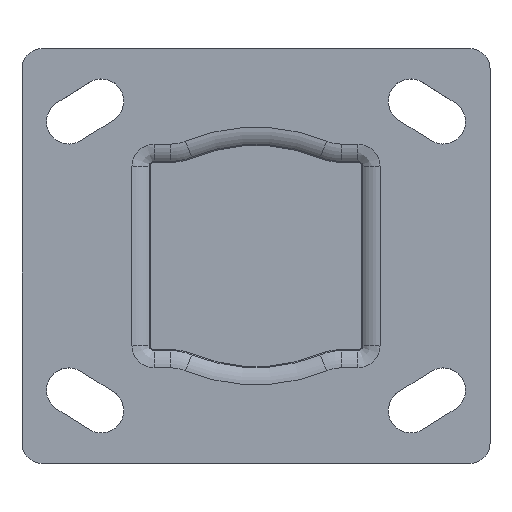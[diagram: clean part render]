
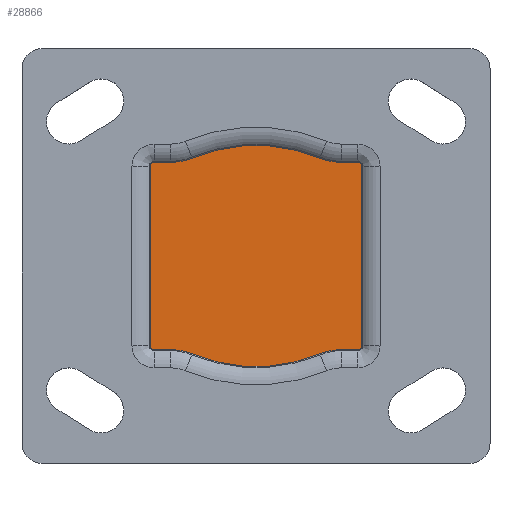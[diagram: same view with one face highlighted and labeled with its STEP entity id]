
A CAD part, top view. The second image highlights one B-rep face of the part: STEP entity #28866.
In plain terms, the highlighted planar face has unit normal (0, 0, 1).
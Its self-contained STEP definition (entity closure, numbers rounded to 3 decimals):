
#28217=CARTESIAN_POINT('',(25.,23.,0.5));
#28218=VERTEX_POINT('',#28217);
#28225=CARTESIAN_POINT('',(26.,22.,0.5));
#28226=VERTEX_POINT('',#28225);
#28227=CARTESIAN_POINT('',(25.,22.,0.5));
#28228=DIRECTION('',(0.0,0.0,1.0));
#28229=DIRECTION('',(1.0,0.0,0.0));
#28230=AXIS2_PLACEMENT_3D('',#28227,#28228,#28229);
#28231=CIRCLE('',#28230,1.0);
#28232=EDGE_CURVE('',#28226,#28218,#28231,.T.);
#28249=CARTESIAN_POINT('',(21.018,23.,0.5));
#28250=VERTEX_POINT('',#28249);
#28257=CARTESIAN_POINT('',(25.,23.,0.5));
#28258=DIRECTION('',(-1.0,0.,0.0));
#28259=VECTOR('',#28258,3.982);
#28260=LINE('',#28257,#28259);
#28261=EDGE_CURVE('',#28218,#28250,#28260,.T.);
#28273=CARTESIAN_POINT('',(15.668,24.063,0.5));
#28274=VERTEX_POINT('',#28273);
#28281=CARTESIAN_POINT('',(21.018,37.,0.5));
#28282=DIRECTION('',(0.0,0.0,-1.0));
#28283=DIRECTION('',(1.0,0.0,0.0));
#28284=AXIS2_PLACEMENT_3D('',#28281,#28282,#28283);
#28285=CIRCLE('',#28284,14.);
#28286=EDGE_CURVE('',#28250,#28274,#28285,.T.);
#28298=CARTESIAN_POINT('',(-15.668,24.063,0.5));
#28299=VERTEX_POINT('',#28298);
#28306=CARTESIAN_POINT('',(0.,-13.826,0.5));
#28307=DIRECTION('',(0.0,0.0,1.0));
#28308=DIRECTION('',(1.0,0.0,0.0));
#28309=AXIS2_PLACEMENT_3D('',#28306,#28307,#28308);
#28310=CIRCLE('',#28309,41.);
#28311=EDGE_CURVE('',#28274,#28299,#28310,.T.);
#28323=CARTESIAN_POINT('',(-21.018,23.,0.5));
#28324=VERTEX_POINT('',#28323);
#28331=CARTESIAN_POINT('',(-21.018,37.,0.5));
#28332=DIRECTION('',(0.0,0.0,-1.0));
#28333=DIRECTION('',(1.0,0.0,0.0));
#28334=AXIS2_PLACEMENT_3D('',#28331,#28332,#28333);
#28335=CIRCLE('',#28334,14.);
#28336=EDGE_CURVE('',#28299,#28324,#28335,.T.);
#28348=CARTESIAN_POINT('',(-25.,23.,0.5));
#28349=VERTEX_POINT('',#28348);
#28356=CARTESIAN_POINT('',(-21.018,23.,0.5));
#28357=DIRECTION('',(-1.0,0.,0.0));
#28358=VECTOR('',#28357,3.982);
#28359=LINE('',#28356,#28358);
#28360=EDGE_CURVE('',#28324,#28349,#28359,.T.);
#28372=CARTESIAN_POINT('',(-26.,22.,0.5));
#28373=VERTEX_POINT('',#28372);
#28380=CARTESIAN_POINT('',(-25.,22.,0.5));
#28381=DIRECTION('',(0.0,0.0,1.0));
#28382=DIRECTION('',(1.0,0.0,0.0));
#28383=AXIS2_PLACEMENT_3D('',#28380,#28381,#28382);
#28384=CIRCLE('',#28383,1.0);
#28385=EDGE_CURVE('',#28349,#28373,#28384,.T.);
#28397=CARTESIAN_POINT('',(-26.,-22.,0.5));
#28398=VERTEX_POINT('',#28397);
#28405=CARTESIAN_POINT('',(-26.,22.,0.5));
#28406=DIRECTION('',(0.0,-1.0,0.0));
#28407=VECTOR('',#28406,44.0);
#28408=LINE('',#28405,#28407);
#28409=EDGE_CURVE('',#28373,#28398,#28408,.T.);
#28659=CARTESIAN_POINT('',(-25.,-23.,0.5));
#28660=VERTEX_POINT('',#28659);
#28667=CARTESIAN_POINT('',(-25.,-22.,0.5));
#28668=DIRECTION('',(0.0,0.0,1.0));
#28669=DIRECTION('',(1.0,0.0,0.0));
#28670=AXIS2_PLACEMENT_3D('',#28667,#28668,#28669);
#28671=CIRCLE('',#28670,1.0);
#28672=EDGE_CURVE('',#28398,#28660,#28671,.T.);
#28684=CARTESIAN_POINT('',(-21.018,-23.,0.5));
#28685=VERTEX_POINT('',#28684);
#28692=CARTESIAN_POINT('',(-25.,-23.,0.5));
#28693=DIRECTION('',(1.0,0.,0.0));
#28694=VECTOR('',#28693,3.982);
#28695=LINE('',#28692,#28694);
#28696=EDGE_CURVE('',#28660,#28685,#28695,.T.);
#28708=CARTESIAN_POINT('',(-15.668,-24.063,0.5));
#28709=VERTEX_POINT('',#28708);
#28716=CARTESIAN_POINT('',(-21.018,-37.,0.5));
#28717=DIRECTION('',(0.0,0.0,-1.0));
#28718=DIRECTION('',(1.0,0.0,0.0));
#28719=AXIS2_PLACEMENT_3D('',#28716,#28717,#28718);
#28720=CIRCLE('',#28719,14.);
#28721=EDGE_CURVE('',#28685,#28709,#28720,.T.);
#28733=CARTESIAN_POINT('',(15.668,-24.063,0.5));
#28734=VERTEX_POINT('',#28733);
#28741=CARTESIAN_POINT('',(0.,13.826,0.5));
#28742=DIRECTION('',(0.0,0.0,1.0));
#28743=DIRECTION('',(1.0,0.0,0.0));
#28744=AXIS2_PLACEMENT_3D('',#28741,#28742,#28743);
#28745=CIRCLE('',#28744,41.);
#28746=EDGE_CURVE('',#28709,#28734,#28745,.T.);
#28758=CARTESIAN_POINT('',(21.018,-23.,0.5));
#28759=VERTEX_POINT('',#28758);
#28766=CARTESIAN_POINT('',(21.018,-37.,0.5));
#28767=DIRECTION('',(0.0,0.0,-1.0));
#28768=DIRECTION('',(1.0,0.0,0.0));
#28769=AXIS2_PLACEMENT_3D('',#28766,#28767,#28768);
#28770=CIRCLE('',#28769,14.);
#28771=EDGE_CURVE('',#28734,#28759,#28770,.T.);
#28783=CARTESIAN_POINT('',(25.,-23.,0.5));
#28784=VERTEX_POINT('',#28783);
#28791=CARTESIAN_POINT('',(21.018,-23.,0.5));
#28792=DIRECTION('',(1.0,0.,0.0));
#28793=VECTOR('',#28792,3.982);
#28794=LINE('',#28791,#28793);
#28795=EDGE_CURVE('',#28759,#28784,#28794,.T.);
#28807=CARTESIAN_POINT('',(26.,-22.,0.5));
#28808=VERTEX_POINT('',#28807);
#28815=CARTESIAN_POINT('',(25.,-22.,0.5));
#28816=DIRECTION('',(0.0,0.0,1.0));
#28817=DIRECTION('',(1.0,0.0,0.0));
#28818=AXIS2_PLACEMENT_3D('',#28815,#28816,#28817);
#28819=CIRCLE('',#28818,1.0);
#28820=EDGE_CURVE('',#28784,#28808,#28819,.T.);
#28833=CARTESIAN_POINT('',(26.,-22.,0.5));
#28834=DIRECTION('',(0.0,1.0,0.0));
#28835=VECTOR('',#28834,44.0);
#28836=LINE('',#28833,#28835);
#28837=EDGE_CURVE('',#28808,#28226,#28836,.T.);
#28843=CARTESIAN_POINT('',(0.,0.,0.5));
#28844=DIRECTION('',(0.0,0.0,1.0));
#28845=DIRECTION('',(1.0,0.0,0.0));
#28846=AXIS2_PLACEMENT_3D('',#28843,#28844,#28845);
#28847=PLANE('',#28846);
#28848=ORIENTED_EDGE('',*,*,#28820,.T.);
#28849=ORIENTED_EDGE('',*,*,#28837,.T.);
#28850=ORIENTED_EDGE('',*,*,#28232,.T.);
#28851=ORIENTED_EDGE('',*,*,#28261,.T.);
#28852=ORIENTED_EDGE('',*,*,#28286,.T.);
#28853=ORIENTED_EDGE('',*,*,#28311,.T.);
#28854=ORIENTED_EDGE('',*,*,#28336,.T.);
#28855=ORIENTED_EDGE('',*,*,#28360,.T.);
#28856=ORIENTED_EDGE('',*,*,#28385,.T.);
#28857=ORIENTED_EDGE('',*,*,#28409,.T.);
#28858=ORIENTED_EDGE('',*,*,#28672,.T.);
#28859=ORIENTED_EDGE('',*,*,#28696,.T.);
#28860=ORIENTED_EDGE('',*,*,#28721,.T.);
#28861=ORIENTED_EDGE('',*,*,#28746,.T.);
#28862=ORIENTED_EDGE('',*,*,#28771,.T.);
#28863=ORIENTED_EDGE('',*,*,#28795,.T.);
#28864=EDGE_LOOP('',(#28848,#28849,#28850,#28851,#28852,#28853,#28854,#28855,#28856,#28857,#28858,#28859,#28860,#28861,#28862,#28863));
#28865=FACE_OUTER_BOUND('',#28864,.T.);
#28866=ADVANCED_FACE('',(#28865),#28847,.T.);
